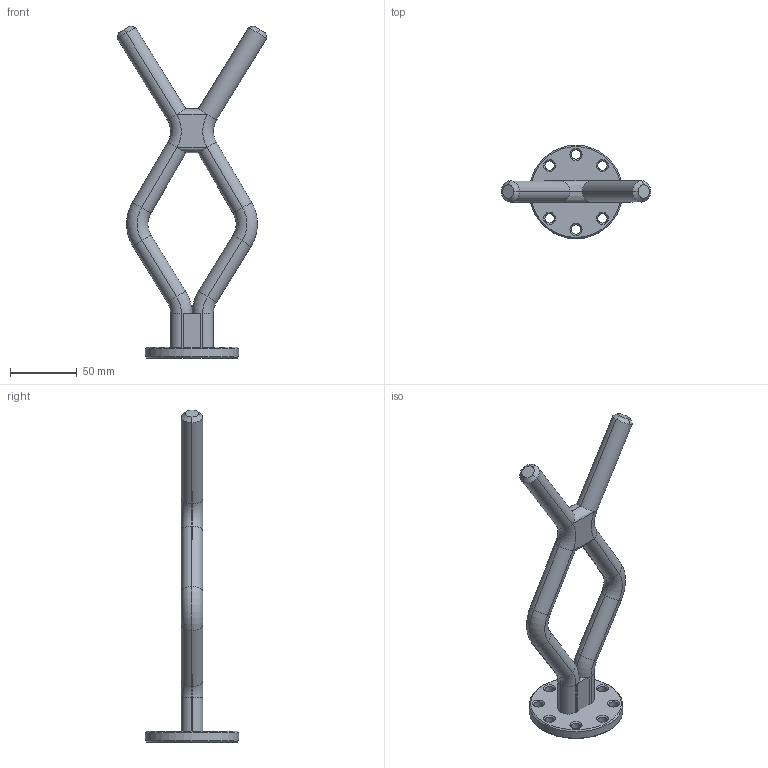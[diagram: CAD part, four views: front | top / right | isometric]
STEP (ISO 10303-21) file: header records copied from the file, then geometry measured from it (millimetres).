
FILE_DESCRIPTION(/* description */ ('FISHTAIL - 316L - 4853-001'),/* implementation_level */ '2;1');
FILE_NAME(/* name */ 'C:\_Workspace\Designs\P4853\Drawings\STP\IKM-6000336 rev-03.stp',/* time_stamp */ '2020-09-17T09:39:47+02:00',/* author */ ('BØ'),/* organization */ ('IKM Technique AS'),/* preprocessor_version */ 'ST-DEVELOPER v17',/* originating_system */ 'Autodesk Inventor 2018',/* authorisation */ '');
FILE_SCHEMA (('AUTOMOTIVE_DESIGN { 1 0 10303 214 3 1 1 }'));
Length unit declared in the file: millimetre
Products named in the file (4): IKM-6000336; IKM-6000336_1; 4853-102; 4853-101
Assembly tree (4 placements, depth 2):
  IKM-6000336
    IKM-6000336_1
    4853-102
    4853-101  x2
Bounding box: 111.96 x 70 x 248.43 mm (x, y, z)
Volume: 137533.8 mm3; surface area: 42785.7 mm2
Topology: 7 solids, 7 shells, 187 faces, 397 edges, 224 vertices
Faces by surface type: plane 70, cylinder 59, torus 28, cone 26, bspline 4
Full cylindrical faces by diameter (mm): 7 x8, 70 x1
Entity records: 3561 total; most frequent: DIRECTION 647, CARTESIAN_POINT 638, ORIENTED_EDGE 524, EDGE_CURVE 262, AXIS2_PLACEMENT_3D 259, VERTEX_POINT 154, EDGE_LOOP 140, CIRCLE 133
